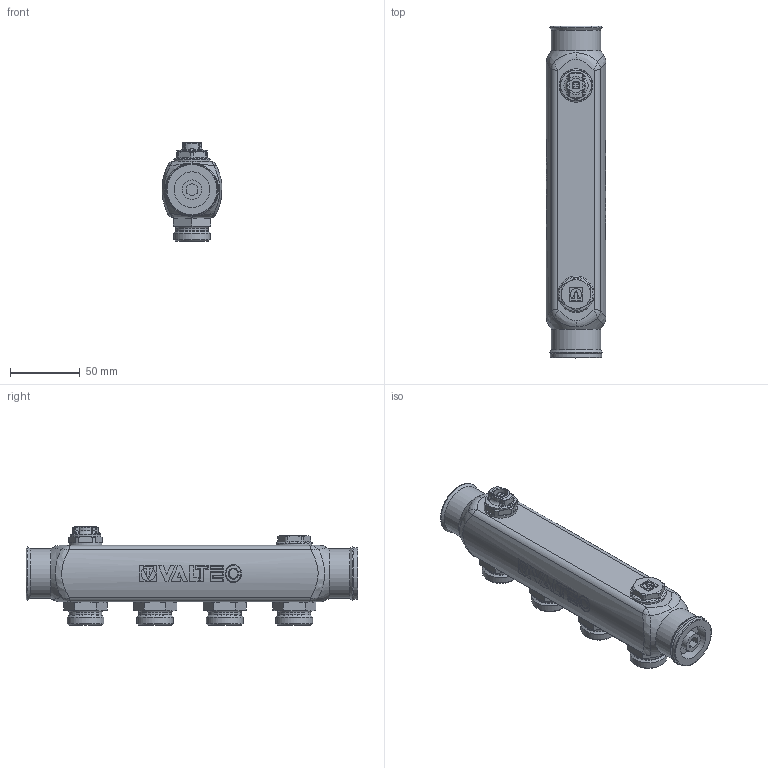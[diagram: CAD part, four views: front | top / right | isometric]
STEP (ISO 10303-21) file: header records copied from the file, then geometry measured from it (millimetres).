
FILE_DESCRIPTION(('STEP AP203'), '1');
FILE_NAME('覆.622621.031.000 捘 - VTc.505.SS.060504', '2024-08-29T08:46:25', ('Boss'), (''), 'C3D Converter', 'C3D Toolkit', '');
FILE_SCHEMA(('CONFIG_CONTROL_DESIGN'));
Length unit declared in the file: millimetre
Products named in the file (1): ВР.622621.031.000 СБ
Bounding box: 43 x 238.5 x 71.1 mm (x, y, z)
Volume: 323466 mm3; surface area: 92013.9 mm2
Topology: 1 solids, 19 shells, 684 faces, 1650 edges, 1028 vertices
Faces by surface type: plane 293, cylinder 165, bspline 92, cone 81, torus 53
Full cylindrical faces by diameter (mm): 5 x1, 10.2 x1, 12.5 x4, 14 x1, 18.1 x4, 22 x1, 23.5 x4, 24 x1, 25.5 x1, 26 x1, 26.441 x4, 30.292 x1, 35.5 x2, 37 x1
Entity records: 48946 total; most frequent: CARTESIAN_POINT 34557, ORIENTED_EDGE 3108, DIRECTION 2597, EDGE_CURVE 1554, VERTEX_POINT 1027, AXIS2_PLACEMENT_3D 1021, EDGE_LOOP 795, FACE_BOUND 705
